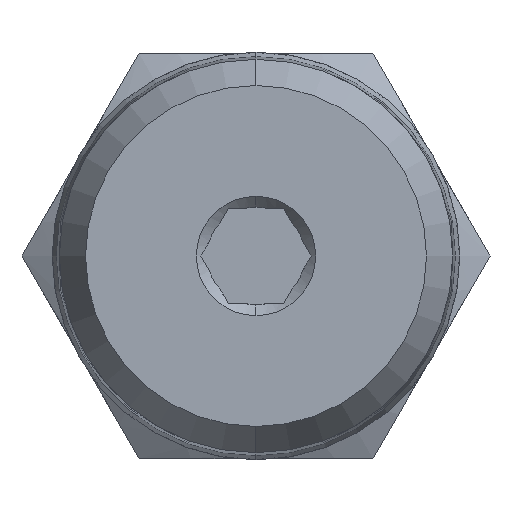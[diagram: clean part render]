
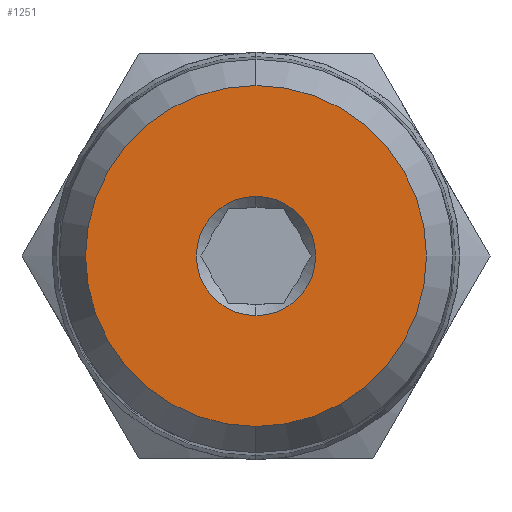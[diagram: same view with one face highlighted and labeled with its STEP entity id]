
A CAD part, front view. The second image highlights one B-rep face of the part: STEP entity #1251.
In plain terms, the highlighted planar face has unit normal (0, -1, 0).
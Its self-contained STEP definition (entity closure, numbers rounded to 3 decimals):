
#5 = EDGE_CURVE ( 'NONE', #6425, #6426, #7309, .T. ) ;
#6 = EDGE_CURVE ( 'NONE', #6437, #6429, #7308, .T. ) ;
#311 = CIRCLE ( 'NONE', #2693, 7.15 ) ;
#319 = CIRCLE ( 'NONE', #2695, 2.5 ) ;
#1251 = ADVANCED_FACE ( 'NONE', ( #6957, #6958 ), #7796, .T. ) ;
#2693 = AXIS2_PLACEMENT_3D ( 'NONE', #8783, #8784, #8785 ) ;
#2695 = AXIS2_PLACEMENT_3D ( 'NONE', #8796, #8797, #8798 ) ;
#3005 = DIRECTION ( 'NONE',  ( 0., 0., -1. ) ) ;
#3006 = DIRECTION ( 'NONE',  ( 0., -1., 0. ) ) ;
#3007 = CARTESIAN_POINT ( 'NONE',  ( 0., 0., 0. ) ) ;
#3008 = DIRECTION ( 'NONE',  ( 0., 0., 1. ) ) ;
#3009 = DIRECTION ( 'NONE',  ( 0., 1., 0. ) ) ;
#3010 = CARTESIAN_POINT ( 'NONE',  ( 0., 0., 0. ) ) ;
#3923 = ORIENTED_EDGE ( 'NONE', *, *, #6, .T. ) ;
#3924 = ORIENTED_EDGE ( 'NONE', *, *, #6276, .T. ) ;
#3925 = ORIENTED_EDGE ( 'NONE', *, *, #6281, .T. ) ;
#3926 = ORIENTED_EDGE ( 'NONE', *, *, #5, .T. ) ;
#5728 = EDGE_LOOP ( 'NONE', ( #3925, #3926 ) ) ;
#6062 = AXIS2_PLACEMENT_3D ( 'NONE', #3010, #3009, #3008 ) ;
#6063 = AXIS2_PLACEMENT_3D ( 'NONE', #3007, #3006, #3005 ) ;
#6276 = EDGE_CURVE ( 'NONE', #6429, #6437, #311, .T. ) ;
#6281 = EDGE_CURVE ( 'NONE', #6426, #6425, #319, .T. ) ;
#6425 = VERTEX_POINT ( 'NONE', #8877 ) ;
#6426 = VERTEX_POINT ( 'NONE', #8878 ) ;
#6429 = VERTEX_POINT ( 'NONE', #8881 ) ;
#6437 = VERTEX_POINT ( 'NONE', #8889 ) ;
#6641 = EDGE_LOOP ( 'NONE', ( #3923, #3924 ) ) ;
#6957 = FACE_OUTER_BOUND ( 'NONE', #6641, .T. ) ;
#6958 = FACE_BOUND ( 'NONE', #5728, .T. ) ;
#7015 = AXIS2_PLACEMENT_3D ( 'NONE', #7803, #7804, #7805 ) ;
#7308 = CIRCLE ( 'NONE', #6063, 7.15 ) ;
#7309 = CIRCLE ( 'NONE', #6062, 2.5 ) ;
#7796 = PLANE ( 'NONE',  #7015 ) ;
#7803 = CARTESIAN_POINT ( 'NONE',  ( 0., 0., 0. ) ) ;
#7804 = DIRECTION ( 'NONE',  ( 0., -1., 0. ) ) ;
#7805 = DIRECTION ( 'NONE',  ( 0., 0., -1. ) ) ;
#8783 = CARTESIAN_POINT ( 'NONE',  ( 0., 0., 0. ) ) ;
#8784 = DIRECTION ( 'NONE',  ( 0., -1., 0. ) ) ;
#8785 = DIRECTION ( 'NONE',  ( 0., 0., -1. ) ) ;
#8796 = CARTESIAN_POINT ( 'NONE',  ( 0., 0., 0. ) ) ;
#8797 = DIRECTION ( 'NONE',  ( 0., 1., 0. ) ) ;
#8798 = DIRECTION ( 'NONE',  ( 0., 0., 1. ) ) ;
#8877 = CARTESIAN_POINT ( 'NONE',  ( 0., 0., 2.5 ) ) ;
#8878 = CARTESIAN_POINT ( 'NONE',  ( 0., 0., -2.5 ) ) ;
#8881 = CARTESIAN_POINT ( 'NONE',  ( 0., 0., -7.15 ) ) ;
#8889 = CARTESIAN_POINT ( 'NONE',  ( 0., 0., 7.15 ) ) ;
